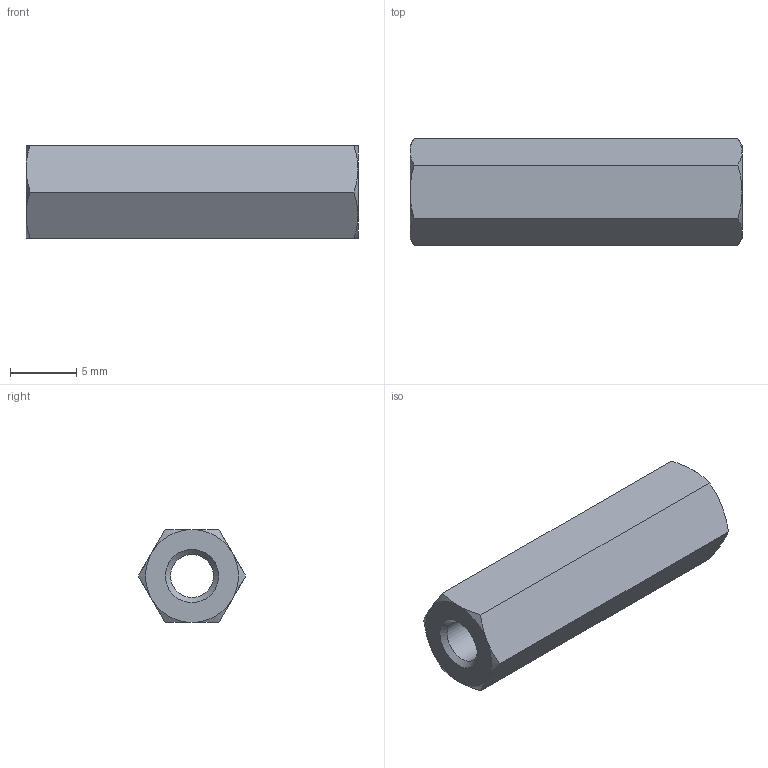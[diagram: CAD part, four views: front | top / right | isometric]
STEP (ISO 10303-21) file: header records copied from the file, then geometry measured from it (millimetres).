
FILE_DESCRIPTION( ( 'STEP AP203' ), '1' );
FILE_NAME( 'C:/Temp/Ganter_Step_05_03_2020/data/3_2/gn6220/gn6220_st/Spacer GN 6220-ST-M4-25-A.stp', '2020-03-13T05:42:24', ( 'License CC BY-ND 4.0' ), ( 'CADENAS' ), ' ', 'PARTsolutions', ' ' );
FILE_SCHEMA( ( 'CONFIG_CONTROL_DESIGN' ) );
Length unit declared in the file: millimetre
Products named in the file (1): _Spacer GN 6220-ST-M4-25-A
Bounding box: 25 x 8.08 x 7 mm (x, y, z)
Volume: 852.2 mm3; surface area: 921.1 mm2
Topology: 1 solids, 1 shells, 23 faces, 49 edges, 28 vertices
Faces by surface type: cone 14, plane 8, cylinder 1
Full cylindrical faces by diameter (mm): 3.242 x1
Entity records: 696 total; most frequent: CARTESIAN_POINT 202, ORIENTED_EDGE 92, DIRECTION 86, EDGE_CURVE 46, AXIS2_PLACEMENT_3D 40, EDGE_LOOP 28, VERTEX_POINT 28, FACE_OUTER_BOUND 24
